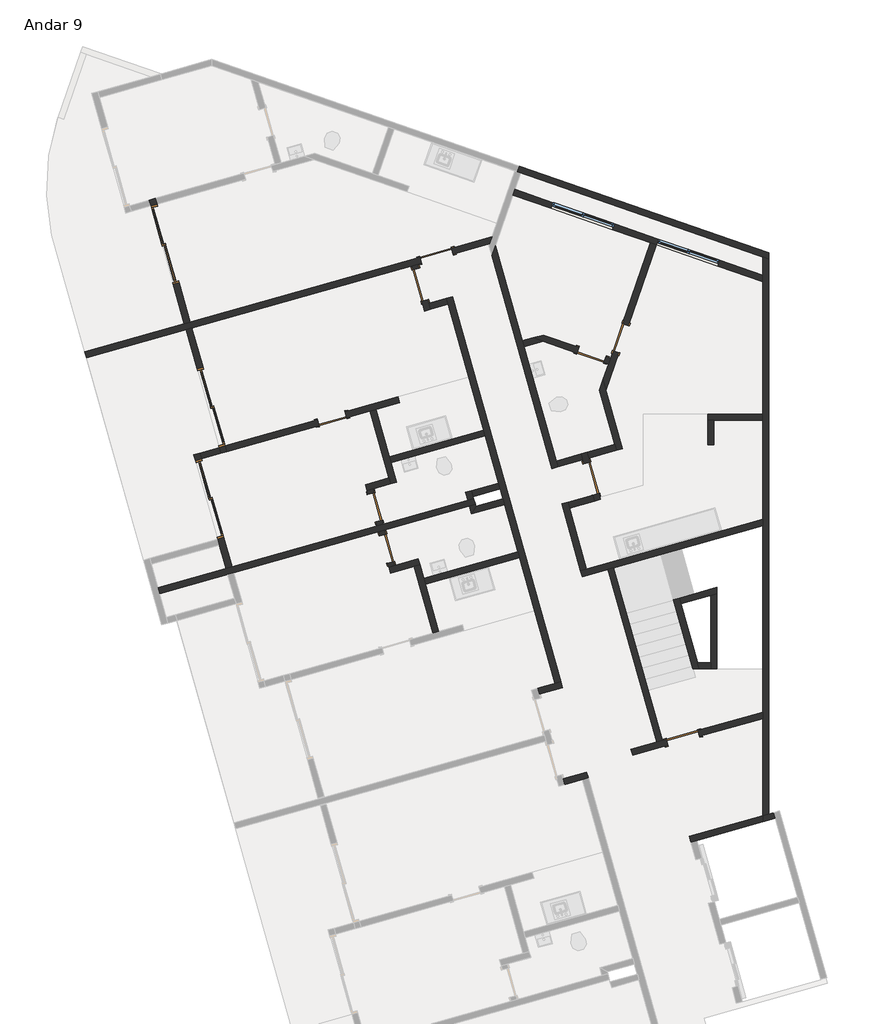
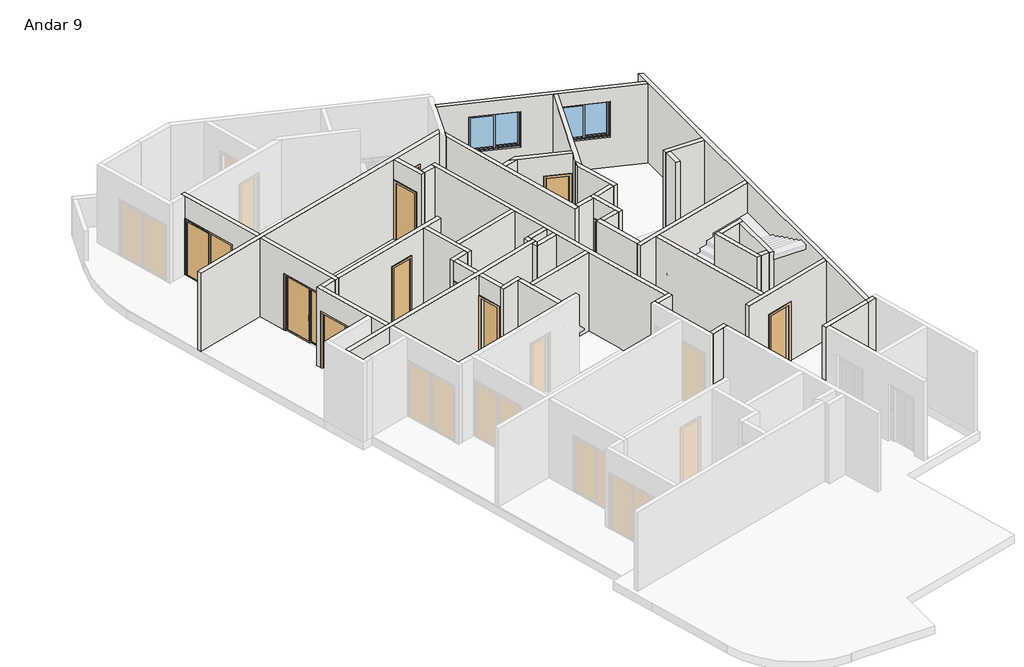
# One storey, part 2 of 3: 48 walls, 12 doors, 2 windows.
"""IFC4 building model written with IfcOpenShell, lengths in millimetres."""

from ifc_helpers import new_model, si_unit, frame, origin, place, context, project, spatial, polyline, outline, extrude, faceted_brep, transform, mapped, element, save
from components import p2_80cm_9d4be4ef, p2_80cm_083652d6, p3_70cm_ef4d15e3, p3_70cm_0a698c7c, p4_correr_200cm_eaaa0877, jx_160cm_e9e36a0c

model = new_model("IFC4")

# Units and contexts
model_context = context("Model", 3, world=origin())
ifc_project = project(units=[si_unit("LENGTHUNIT", "METRE", prefix="MILLI")], contexts=[model_context])

# Site, building, storey
site = spatial("IfcSite", under=ifc_project)
building = spatial("IfcBuilding", under=site)
storey = spatial("IfcBuildingStorey", under=building, Name="Andar 9", Elevation=76850.0)

# Doors
placement = place(None, origin())
p2_80cm_shape = p2_80cm_9d4be4ef(model_context)
element("IfcDoor", 1, ObjectType="M_Folha única1 : P2 - 80CM", at=placement, inside=storey, context=model_context, shape_type="MappedRepresentation", body=[
    mapped(p2_80cm_shape, transform((-83145.1128896, 30941.0402894, 76850.0), x_axis=(-0.9623628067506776, -0.2717679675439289, 0.0), y_axis=(0.2717679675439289, -0.9623628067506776, 0.0), z_axis=(0.0, 0.0, 1.0))),
])
element("IfcDoor", 2, ObjectType="M_Folha única1 : P2 - 80CM", at=placement, inside=storey, context=model_context, shape_type="MappedRepresentation", body=[
    mapped(p2_80cm_shape, transform((-79349.4097406, 25479.1041247, 76850.0), x_axis=(-0.27176796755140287, 0.962362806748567, 0.0), y_axis=(-0.962362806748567, -0.27176796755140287, 0.0), z_axis=(0.0, 0.0, 1.0))),
])
p2_80cm_2_shape = p2_80cm_083652d6(model_context)
element("IfcDoor", 3, ObjectType="M_Folha única1 : P2 - 80CM", at=placement, inside=storey, context=model_context, shape_type="MappedRepresentation", body=[
    mapped(p2_80cm_2_shape, transform((-83542.2049222, 30231.4150941, 76850.0), x_axis=(-0.2717679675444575, 0.9623628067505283, 0.0), y_axis=(-0.9623628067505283, -0.2717679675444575, 0.0), z_axis=(0.0, 0.0, 1.0))),
])
p3_70cm_shape = p3_70cm_ef4d15e3(model_context)
element("IfcDoor", 4, ObjectType="M_Folha única1 : P3 - 70CM", at=placement, inside=storey, context=model_context, shape_type="MappedRepresentation", body=[
    mapped(p3_70cm_shape, transform((-84650.97864, 24774.7108835, 76850.0), x_axis=(0.2717679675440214, -0.9623628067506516, 0.0), y_axis=(0.9623628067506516, 0.2717679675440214, 0.0), z_axis=(0.0, 0.0, 1.0))),
])
p3_70cm_2_shape = p3_70cm_0a698c7c(model_context)
element("IfcDoor", 5, ObjectType="M_Folha única1 : P3 - 70CM", at=placement, inside=storey, context=model_context, shape_type="MappedRepresentation", body=[
    mapped(p3_70cm_2_shape, transform((-84365.6222741, 23764.2299364, 76850.0), x_axis=(-0.2717679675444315, 0.9623628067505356, 0.0), y_axis=(-0.9623628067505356, -0.2717679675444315, 0.0), z_axis=(0.0, 0.0, 1.0))),
])
element("IfcDoor", 6, ObjectType="M_Folha única1 : P3 - 70CM", at=placement, inside=storey, context=model_context, shape_type="MappedRepresentation", body=[
    mapped(p3_70cm_2_shape, transform((-85705.4317558, 26944.8211633, 76850.0), x_axis=(0.9623628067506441, 0.2717679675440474, 0.0), y_axis=(-0.2717679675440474, 0.9623628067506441, 0.0), z_axis=(0.0, 0.0, 1.0))),
])
element("IfcDoor", 7, ObjectType="M_Folha única1 : P3 - 70CM", at=placement, inside=storey, context=model_context, shape_type="MappedRepresentation", body=[
    mapped(p3_70cm_2_shape, transform((-79346.1223746, 28509.6973665, 76850.0), x_axis=(0.9449109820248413, -0.32732741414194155, 0.0), y_axis=(0.32732741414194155, 0.9449109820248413, 0.0), z_axis=(0.0, 0.0, 1.0))),
])
element("IfcDoor", 8, ObjectType="M_Folha única1 : P3 - 70CM", at=placement, inside=storey, context=model_context, shape_type="MappedRepresentation", body=[
    mapped(p3_70cm_2_shape, transform((-78626.5662556, 28921.8732895, 76850.0), x_axis=(-0.32732741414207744, -0.9449109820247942, 0.0), y_axis=(0.9449109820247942, -0.32732741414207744, 0.0), z_axis=(0.0, 0.0, 1.0))),
])
p4_correr_200cm_shape = p4_correr_200cm_eaaa0877(model_context)
element("IfcDoor", 9, ObjectType="Porta de correr dupla envidraçada sem revestimento : P4 - CORRER - 200CM", at=placement, inside=storey, context=model_context, shape_type="MappedRepresentation", body=[
    mapped(p4_correr_200cm_shape, transform((-89799.7974026, 31217.9316171, 76850.0), x_axis=(0.27176796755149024, -0.9623628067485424, 0.0), y_axis=(0.9623628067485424, 0.27176796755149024, 0.0), z_axis=(0.0, 0.0, 1.0))),
])
element("IfcDoor", 10, ObjectType="Porta de correr dupla envidraçada sem revestimento : P4 - CORRER - 200CM", at=placement, inside=storey, context=model_context, shape_type="MappedRepresentation", body=[
    mapped(p4_correr_200cm_shape, transform((-88671.9603372, 27224.125969, 76850.0), x_axis=(-0.27176796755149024, 0.9623628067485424, 0.0), y_axis=(-0.9623628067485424, -0.27176796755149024, 0.0), z_axis=(0.0, 0.0, 1.0))),
])
element("IfcDoor", 11, ObjectType="Porta de correr dupla envidraçada sem revestimento : P4 - CORRER - 200CM", at=placement, inside=storey, context=model_context, shape_type="MappedRepresentation", body=[
    mapped(p4_correr_200cm_shape, transform((-88709.3738038, 24979.4758572, 76850.0), x_axis=(-0.2717679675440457, 0.9623628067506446, 0.0), y_axis=(-0.9623628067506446, -0.2717679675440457, 0.0), z_axis=(0.0, 0.0, 1.0))),
])
element("IfcDoor", 12, ObjectType="M_Folha única1 : PCF1 - 80CM", at=placement, inside=storey, context=model_context, shape_type="MappedRepresentation", body=[
    mapped(p2_80cm_shape, transform((-77103.5502958, 19127.1105693, 76850.0), x_axis=(-0.9623628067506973, -0.2717679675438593, 0.0), y_axis=(0.2717679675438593, -0.9623628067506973, 0.0), z_axis=(0.0, 0.0, 1.0))),
])

# Walls
element("IfcWall", 13, ObjectType="Básica .15 -  Interna", at=placement, inside=storey, context=model_context, shape_type="Brep", body=[
    faceted_brep([(-82901.0804648, 29892.9118737, 76850.0), (-82860.3152697, 29748.5574527, 76850.0), (-81990.6577736, 26668.9964711, 76850.0), (-81949.8925784, 26524.6420501, 76850.0), (-81623.7710174, 25369.806682, 76850.0), (-81583.0058223, 25225.452261, 76850.0), (-81515.0638304, 24984.8615593, 76850.0), (-81474.2986352, 24840.5071383, 76850.0), (-81148.1770742, 23685.6717702, 76850.0), (-81107.4118791, 23541.3173492, 76850.0), (-80237.7543829, 20461.7563676, 76850.0), (-80237.7543829, 20461.7563676, 79750.0), (-81107.4118791, 23541.3173492, 79750.0), (-81148.1770742, 23685.6717702, 79750.0), (-81474.2986352, 24840.5071383, 79750.0), (-81515.0638304, 24984.8615593, 79750.0), (-81583.0058223, 25225.452261, 79750.0), (-81623.7710174, 25369.806682, 79750.0), (-81949.8925784, 26524.6420501, 79750.0), (-81990.6577736, 26668.9964711, 79750.0), (-82860.3152697, 29748.5574527, 79750.0), (-82901.0804648, 29892.9118737, 79750.0), (-82756.7260438, 29933.6770689, 76850.0), (-82756.7260438, 29933.6770689, 79750.0), (-80093.3999619, 20502.5215627, 79750.0), (-80093.3999619, 20502.5215627, 76850.0)], [[[0, 1, 2, 3, 4, 5, 6, 7, 8, 9, 10, 11, 12, 13, 14, 15, 16, 17, 18, 19, 20, 21]], [[22, 23, 24, 25]], [[10, 9, 8, 7, 6, 5, 4, 3, 2, 1, 0, 22, 25]], [[21, 20, 19, 18, 17, 16, 15, 14, 13, 12, 11, 24, 23]], [[0, 21, 23, 22]], [[11, 10, 25, 24]]]),
])
element("IfcWall", 14, ObjectType="Básica .15 -  Interna", at=placement, inside=storey, context=model_context, shape_type="Brep", body=[
    faceted_brep([(-83750.2661164, 30692.2138999, 76850.0), (-83723.0893197, 30595.9776193, 76850.0), (-83723.0893197, 30595.9776193, 78950.0), (-83505.6749457, 29826.0873739, 78950.0), (-83505.6749457, 29826.0873739, 76850.0), (-83437.7329538, 29585.4966722, 76850.0), (-83437.7329538, 29585.4966722, 79750.0), (-83750.2661164, 30692.2138999, 79750.0), (-83578.7348987, 30636.7428144, 78950.0), (-83578.7348987, 30636.7428144, 76850.0), (-83605.9116954, 30732.9790951, 76850.0), (-83605.9116954, 30732.9790951, 79750.0), (-83334.1437279, 29770.6162883, 79750.0), (-83293.3785328, 29626.2618673, 79750.0), (-83293.3785328, 29626.2618673, 76850.0), (-83334.1437279, 29770.6162883, 76850.0), (-83361.3205246, 29866.852569, 76850.0), (-83361.3205246, 29866.852569, 78950.0)], [[[0, 1, 2, 3, 4, 5, 6, 7]], [[8, 9, 10, 11, 12, 13, 14, 15, 16, 17]], [[10, 9, 1, 0]], [[16, 15, 14, 5, 4]], [[7, 6, 13, 12, 11]], [[6, 5, 14, 13]], [[0, 7, 11, 10]], [[2, 1, 9, 8]], [[3, 2, 8, 17]], [[4, 3, 17, 16]]]),
])
element("IfcWall", 15, ObjectType="Básica .15 -  Interna", at=placement, inside=storey, context=model_context, shape_type="SweptSolid", body=[
    extrude(outline(polyline([(-82860.3152697, 29748.5574527), (-83293.3785328, 29626.2618673), (-83334.1437279, 29770.6162883), (-82901.0804648, 29892.9118737), (-82860.3152697, 29748.5574527)])), frame((0.0, 0.0, 76850.0), z_axis=(0.0, 0.0, 1.0), x_axis=(1.0, 0.0, 0.0)), (0.0, 0.0, 1.0), 2900.0),
])
element("IfcWall", 16, ObjectType="Básica .15 -  Interna", at=placement, inside=storey, context=model_context, shape_type="Brep", body=[
    faceted_brep([(-80093.3999619, 20502.5215627, 76850.0), (-80237.7543829, 20461.7563676, 76850.0), (-80670.817646, 20339.4607822, 76850.0), (-80670.817646, 20339.4607822, 79750.0), (-80237.7543829, 20461.7563676, 79750.0), (-80093.3999619, 20502.5215627, 79750.0), (-80052.6347668, 20358.1671417, 76850.0), (-80052.6347668, 20358.1671417, 79750.0), (-80630.0524508, 20195.1063612, 79750.0), (-80630.0524508, 20195.1063612, 76850.0)], [[[0, 1, 2, 3, 4, 5]], [[6, 7, 8, 9]], [[2, 1, 0, 6, 9]], [[5, 4, 3, 8, 7]], [[3, 2, 9, 8]], [[0, 5, 7, 6]]]),
])
element("IfcWall", 17, ObjectType="Básica .15 -  Interna", at=placement, inside=storey, context=model_context, shape_type="Brep", body=[
    faceted_brep([(-80004.9861255, 17981.6719056, 76850.0), (-79571.9228624, 18103.967491, 76850.0), (-79427.5684414, 18144.7326862, 76850.0), (-79427.5684414, 18144.7326862, 79750.0), (-79571.9228624, 18103.967491, 79750.0), (-80004.9861255, 17981.6719056, 79750.0), (-80045.7513206, 18126.0263266, 76850.0), (-80045.7513206, 18126.0263266, 79750.0), (-79468.3336366, 18289.0871072, 79750.0), (-79468.3336366, 18289.0871072, 76850.0)], [[[0, 1, 2, 3, 4, 5]], [[6, 7, 8, 9]], [[2, 1, 0, 6, 9]], [[5, 4, 3, 8, 7]], [[3, 2, 9, 8]], [[0, 5, 7, 6]]]),
])
element("IfcWall", 18, ObjectType="Básica .15 -  Interna", at=placement, inside=storey, context=model_context, shape_type="Brep", body=[
    faceted_brep([(-88305.9570711, 23274.9583478, 79750.0), (-88469.0178517, 23852.3760319, 79750.0), (-88509.7830468, 23996.7304529, 79750.0), (-89094.084177, 26065.8104874, 79750.0), (-89094.084177, 26065.8104874, 76850.0), (-89053.3189819, 25921.4560664, 76850.0), (-89053.3189819, 25921.4560664, 78950.0), (-88509.7830468, 23996.7304529, 78950.0), (-88509.7830468, 23996.7304529, 76850.0), (-88469.0178517, 23852.3760319, 76850.0), (-88305.9570711, 23274.9583478, 76850.0), (-88949.729756, 26106.5756825, 79750.0), (-88908.9645609, 25962.2212615, 79750.0), (-88161.6026501, 23315.723543, 79750.0), (-88161.6026501, 23315.723543, 76850.0), (-88365.4286258, 24037.495648, 76850.0), (-88365.4286258, 24037.495648, 78950.0), (-88908.9645609, 25962.2212615, 78950.0), (-88908.9645609, 25962.2212615, 76850.0), (-88949.729756, 26106.5756825, 76850.0)], [[[0, 1, 2, 3, 4, 5, 6, 7, 8, 9, 10]], [[11, 12, 13, 14, 15, 16, 17, 18, 19]], [[4, 19, 18, 5]], [[14, 10, 9, 8, 15]], [[3, 2, 1, 0, 13, 12, 11]], [[4, 3, 11, 19]], [[0, 10, 14, 13]], [[17, 6, 5, 18]], [[6, 17, 16, 7]], [[7, 16, 15, 8]]]),
])
element("IfcWall", 19, ObjectType="Básica .15 -  Interna", at=placement, inside=storey, context=model_context, shape_type="Brep", body=[
    faceted_brep([(-89143.3190618, 29169.2341801, 79750.0), (-88328.0151592, 26282.1457598, 79750.0), (-88287.249964, 26137.7913388, 79750.0), (-88287.249964, 26137.7913388, 76850.0), (-88328.0151592, 26282.1457598, 76850.0), (-88328.0151592, 26282.1457598, 78950.0), (-88871.5510943, 28206.8713733, 78950.0), (-88871.5510943, 28206.8713733, 76850.0), (-89143.3190618, 29169.2341801, 76850.0), (-88431.604385, 26097.0261437, 79750.0), (-88472.3695802, 26241.3805647, 79750.0), (-89287.6734828, 29128.468985, 79750.0), (-89287.6734828, 29128.468985, 76850.0), (-89015.9055153, 28166.1061782, 76850.0), (-89015.9055153, 28166.1061782, 78950.0), (-88472.3695802, 26241.3805647, 78950.0), (-88472.3695802, 26241.3805647, 76850.0), (-88431.604385, 26097.0261437, 76850.0)], [[[0, 1, 2, 3, 4, 5, 6, 7, 8]], [[9, 10, 11, 12, 13, 14, 15, 16, 17]], [[3, 17, 16, 4]], [[12, 8, 7, 13]], [[2, 1, 0, 11, 10, 9]], [[3, 2, 9, 17]], [[0, 8, 12, 11]], [[6, 14, 13, 7]], [[14, 6, 5, 15]], [[15, 5, 4, 16]]]),
])
element("IfcWall", 20, ObjectType="Básica .15 -  Interna", at=placement, inside=storey, context=model_context, shape_type="Brep", body=[
    faceted_brep([(-76904.7538909, 16570.3643175, 76850.0), (-76760.3994699, 16611.1295126, 76850.0), (-75147.8282189, 17066.5141226, 76850.0), (-75147.8282189, 17066.5141226, 79750.0), (-76760.3994699, 16611.1295126, 79750.0), (-76904.7538909, 16570.3643175, 79750.0), (-76945.5190861, 16714.7187385, 76850.0), (-76945.5190861, 16714.7187385, 79750.0), (-75147.8282189, 17222.3804954, 79750.0), (-75147.8282189, 17222.3804954, 76850.0)], [[[0, 1, 2, 3, 4, 5]], [[6, 7, 8, 9]], [[2, 1, 0, 6, 9]], [[5, 4, 3, 8, 7]], [[0, 5, 7, 6]], [[3, 2, 9, 8]]]),
])
element("IfcWall", 21, ObjectType="Básica .15 -  Interna", at=placement, inside=storey, context=model_context, shape_type="Brep", body=[
    faceted_brep([(-79570.9048554, 23078.5590693, 76850.0), (-78948.2127609, 23254.4051886, 76850.0), (-78803.8582924, 23295.1703972, 76850.0), (-75147.8282189, 24327.6207947, 76850.0), (-75147.8282189, 24327.6207947, 79750.0), (-78803.8582924, 23295.1703972, 79750.0), (-78948.2127609, 23254.4051886, 79750.0), (-79570.9048554, 23078.5590693, 79750.0), (-79611.6700506, 23222.9134903, 76850.0), (-79611.6700506, 23222.9134903, 79750.0), (-79467.3156296, 23263.6786855, 79750.0), (-75147.8282189, 24483.4871675, 79750.0), (-75147.8282189, 24483.4871675, 76850.0), (-79467.3156296, 23263.6786855, 76850.0)], [[[0, 1, 2, 3, 4, 5, 6, 7]], [[8, 9, 10, 11, 12, 13]], [[3, 2, 1, 0, 8, 13, 12]], [[7, 6, 5, 4, 11, 10, 9]], [[0, 7, 9, 8]], [[4, 3, 12, 11]]]),
])
element("IfcWall", 22, ObjectType="Básica .15 -  Interna", at=placement, inside=storey, context=model_context, shape_type="SweptSolid", body=[
    extrude(outline(polyline([(-77749.4687652, 19022.6385875), (-78948.2127609, 23254.4051886), (-78803.8582924, 23295.1703972), (-77605.1142967, 19063.4037961), (-77749.4687652, 19022.6385875)])), frame((0.0, 0.0, 76850.0), z_axis=(0.0, 0.0, 1.0), x_axis=(1.0, 0.0, 0.0)), (0.0, 0.0, 1.0), 2900.0),
])
element("IfcWall", 23, ObjectType="Básica .15 -  Interna", at=placement, inside=storey, context=model_context, shape_type="Brep", body=[
    faceted_brep([(-77508.878016, 19090.5805928, 78950.0), (-77508.878016, 19090.5805928, 76850.0), (-77605.1142967, 19063.4037961, 76850.0), (-77749.4687652, 19022.6385875, 76850.0), (-78375.5945972, 18845.8227925, 76850.0), (-78375.5945972, 18845.8227925, 79750.0), (-77749.4687652, 19022.6385875, 79750.0), (-77605.1142967, 19063.4037961, 79750.0), (-75147.8282189, 19757.3329862, 79750.0), (-75147.8282189, 19757.3329862, 76850.0), (-76738.9877706, 19307.9949669, 76850.0), (-76738.9877706, 19307.9949669, 78950.0), (-78334.829402, 18701.4683715, 76850.0), (-77468.1128209, 18946.2261718, 76850.0), (-77468.1128209, 18946.2261718, 78950.0), (-76698.2225755, 19163.6405459, 78950.0), (-76698.2225755, 19163.6405459, 76850.0), (-75147.8282189, 19601.4666134, 76850.0), (-75147.8282189, 19601.4666134, 79750.0), (-78334.829402, 18701.4683715, 79750.0)], [[[0, 1, 2, 3, 4, 5, 6, 7, 8, 9, 10, 11]], [[12, 13, 14, 15, 16, 17, 18, 19]], [[10, 9, 17, 16]], [[4, 3, 2, 1, 13, 12]], [[5, 4, 12, 19]], [[8, 7, 6, 5, 19, 18]], [[14, 13, 1, 0]], [[15, 14, 0, 11]], [[16, 15, 11, 10]], [[9, 8, 18, 17]]]),
])
element("IfcWall", 24, ObjectType="Básica .15 - Externa", at=placement, inside=storey, context=model_context, shape_type="Brep", body=[
    faceted_brep([(-75147.8282189, 30909.9128092, 79750.0), (-75147.8282189, 30909.9128092, 76850.0), (-75147.8282189, 30461.6117638, 76850.0), (-75147.8282189, 30302.8666514, 76850.0), (-75147.8282189, 27060.8243598, 76850.0), (-75147.8282189, 26910.8243598, 76850.0), (-75147.8282189, 24483.4871675, 76850.0), (-75147.8282189, 24327.6207947, 76850.0), (-75147.8282189, 19757.3329862, 76850.0), (-75147.8282189, 19601.4666134, 76850.0), (-75147.8282189, 17222.3804954, 76850.0), (-75147.8282189, 17222.3804954, 79750.0), (-75147.8282189, 19601.4666134, 79750.0), (-75147.8282189, 19757.3329862, 79750.0), (-75147.8282189, 24327.6207947, 79750.0), (-75147.8282189, 24483.4871675, 79750.0), (-75147.8282189, 26910.8243598, 79750.0), (-75147.8282189, 27060.8243598, 79750.0), (-75147.8282189, 30302.8666514, 79750.0), (-75147.8282189, 30461.6117638, 79750.0), (-74997.8282189, 30857.9511821, 76850.0), (-74997.8282189, 30857.9511821, 78150.0), (-74997.8282189, 30857.9511821, 79450.0), (-74997.8282189, 30857.9511821, 79750.0), (-74997.8282189, 17264.7399828, 79750.0), (-74997.8282189, 17264.7399828, 76850.0)], [[[0, 1, 2, 3, 4, 5, 6, 7, 8, 9, 10, 11, 12, 13, 14, 15, 16, 17, 18, 19]], [[20, 21, 22, 23, 24, 25]], [[10, 9, 8, 7, 6, 5, 4, 3, 2, 1, 20, 25]], [[0, 19, 18, 17, 16, 15, 14, 13, 12, 11, 24, 23]], [[11, 10, 25, 24]], [[0, 23, 22, 21, 20, 1]]]),
])
element("IfcWall", 25, ObjectType="Básica .15 -  Interna", at=placement, inside=storey, context=model_context, shape_type="Brep", body=[
    faceted_brep([(-80073.6755954, 24858.9302618, 76850.0), (-79611.6700506, 23222.9134903, 76850.0), (-79611.6700506, 23222.9134903, 79750.0), (-80073.6755954, 24858.9302618, 79750.0), (-79929.3211744, 24899.695457, 76850.0), (-79929.3211744, 24899.695457, 79750.0), (-79888.5559793, 24755.3410359, 79750.0), (-79467.3156296, 23263.6786855, 79750.0), (-79467.3156296, 23263.6786855, 76850.0), (-79888.5559793, 24755.3410359, 76850.0)], [[[0, 1, 2, 3]], [[4, 5, 6, 7, 8, 9]], [[1, 0, 4, 9, 8]], [[3, 2, 7, 6, 5]], [[0, 3, 5, 4]], [[2, 1, 8, 7]]]),
])
element("IfcWall", 26, ObjectType="Básica .15 -  Interna", at=placement, inside=storey, context=model_context, shape_type="Brep", body=[
    faceted_brep([(-79888.5559793, 24755.3410359, 76850.0), (-79272.1145689, 24929.4219834, 76850.0), (-79272.1145689, 24929.4219834, 79750.0), (-79888.5559793, 24755.3410359, 79750.0), (-79929.3211744, 24899.695457, 76850.0), (-79929.3211744, 24899.695457, 79750.0), (-79312.8797641, 25073.7764044, 79750.0), (-79312.8797641, 25073.7764044, 78950.0), (-79312.8797641, 25073.7764044, 76850.0)], [[[0, 1, 2, 3]], [[4, 5, 6, 7, 8]], [[1, 0, 4, 8]], [[3, 2, 6, 5]], [[0, 3, 5, 4]], [[2, 1, 8, 7, 6]]]),
])
element("IfcWall", 27, ObjectType="Básica .15 -  Interna", at=placement, inside=storey, context=model_context, shape_type="Brep", body=[
    faceted_brep([(-79598.23613, 26084.2573515, 76850.0), (-79557.4709349, 25939.9029305, 76850.0), (-79530.2941381, 25843.6666498, 76850.0), (-79530.2941381, 25843.6666498, 78950.0), (-79312.8797641, 25073.7764044, 78950.0), (-79312.8797641, 25073.7764044, 76850.0), (-79272.1145689, 24929.4219834, 76850.0), (-79272.1145689, 24929.4219834, 79750.0), (-79312.8797641, 25073.7764044, 79750.0), (-79557.4709349, 25939.9029305, 79750.0), (-79598.23613, 26084.2573515, 79750.0), (-79385.9397171, 25884.4318449, 78950.0), (-79385.9397171, 25884.4318449, 76850.0), (-79413.1165138, 25980.6681256, 76850.0), (-79453.881709, 26125.0225466, 76850.0), (-79453.881709, 26125.0225466, 79750.0), (-79413.1165138, 25980.6681256, 79750.0), (-79127.7601479, 24970.1871785, 79750.0), (-79127.7601479, 24970.1871785, 76850.0), (-79168.5253431, 25114.5415995, 76850.0), (-79168.5253431, 25114.5415995, 78950.0)], [[[0, 1, 2, 3, 4, 5, 6, 7, 8, 9, 10]], [[11, 12, 13, 14, 15, 16, 17, 18, 19, 20]], [[19, 18, 6, 5]], [[14, 13, 12, 2, 1, 0]], [[10, 9, 8, 7, 17, 16, 15]], [[7, 6, 18, 17]], [[0, 10, 15, 14]], [[3, 2, 12, 11]], [[4, 3, 11, 20]], [[5, 4, 20, 19]]]),
])
element("IfcWall", 28, ObjectType="Básica .15 -  Interna", at=placement, inside=storey, context=model_context, shape_type="Brep", body=[
    faceted_brep([(-81789.2550074, 30934.0017027, 76850.0), (-80318.2667662, 25725.0567879, 76850.0), (-80318.2667662, 25725.0567879, 79750.0), (-81789.2550074, 30934.0017027, 79750.0), (-81703.3880158, 31181.8778654, 76850.0), (-81703.3880158, 31181.8778654, 79750.0), (-81045.1503443, 28850.9797144, 79750.0), (-81004.3851492, 28706.6252933, 79750.0), (-80214.6775403, 25910.176404, 79750.0), (-80173.9123452, 25765.821983, 79750.0), (-80173.9123452, 25765.821983, 76850.0), (-80214.6775403, 25910.176404, 76850.0), (-81004.3851492, 28706.6252933, 76850.0), (-81045.1503443, 28850.9797144, 76850.0)], [[[0, 1, 2, 3]], [[4, 5, 6, 7, 8, 9, 10, 11, 12, 13]], [[1, 0, 4, 13, 12, 11, 10]], [[3, 2, 9, 8, 7, 6, 5]], [[0, 3, 5, 4]], [[2, 1, 10, 9]]]),
])
element("IfcWall", 29, ObjectType="Básica .15 -  Interna", at=placement, inside=storey, context=model_context, shape_type="Brep", body=[
    faceted_brep([(-88908.9645609, 25962.2212615, 76850.0), (-88431.604385, 26097.0261437, 76850.0), (-88431.604385, 26097.0261437, 79750.0), (-88908.9645609, 25962.2212615, 79750.0), (-88908.9645609, 25962.2212615, 78950.0), (-88949.729756, 26106.5756825, 76850.0), (-88949.729756, 26106.5756825, 79750.0), (-88472.3695802, 26241.3805647, 79750.0), (-88472.3695802, 26241.3805647, 76850.0)], [[[0, 1, 2, 3, 4]], [[5, 6, 7, 8]], [[1, 0, 5, 8]], [[3, 2, 7, 6]], [[0, 4, 3, 6, 5]], [[2, 1, 8, 7]]]),
])
element("IfcWall", 30, ObjectType="Básica .15 -  Interna", at=placement, inside=storey, context=model_context, shape_type="SweptSolid", body=[
    extrude(outline(polyline([(-79557.4709349, 25939.9029305), (-80173.9123452, 25765.821983), (-80214.6775403, 25910.176404), (-79598.23613, 26084.2573515), (-79557.4709349, 25939.9029305)])), frame((0.0, 0.0, 76850.0), z_axis=(0.0, 0.0, 1.0), x_axis=(1.0, 0.0, 0.0)), (0.0, 0.0, 1.0), 2900.0),
])
element("IfcWall", 31, ObjectType="Básica .15 -  Interna", at=placement, inside=storey, context=model_context, shape_type="Brep", body=[
    faceted_brep([(-91725.2428613, 28440.1077234, 76850.0), (-89287.6734828, 29128.468985, 76850.0), (-89143.3190618, 29169.2341801, 76850.0), (-83750.2661164, 30692.2138999, 76850.0), (-83605.9116954, 30732.9790951, 76850.0), (-83509.6754148, 30760.1558918, 76850.0), (-83509.6754148, 30760.1558918, 78950.0), (-82739.7851694, 30977.5702659, 78950.0), (-82739.7851694, 30977.5702659, 76850.0), (-81845.4155775, 31230.1371819, 76850.0), (-81845.4155775, 31230.1371819, 79750.0), (-83605.9116954, 30732.9790951, 79750.0), (-83750.2661164, 30692.2138999, 79750.0), (-89143.3190618, 29169.2341801, 79750.0), (-89287.6734828, 29128.468985, 79750.0), (-91725.2428613, 28440.1077234, 79750.0), (-83550.4406099, 30904.5103128, 78950.0), (-83550.4406099, 30904.5103128, 76850.0), (-89184.084257, 29313.5886011, 76850.0), (-89328.438678, 29272.823406, 76850.0), (-91766.0080564, 28584.4621444, 76850.0), (-91766.0080564, 28584.4621444, 79750.0), (-89328.438678, 29272.823406, 79750.0), (-89184.084257, 29313.5886011, 79750.0), (-81785.5670817, 31402.9045654, 79750.0), (-81785.5670817, 31402.9045654, 76850.0), (-82780.5503645, 31121.9246869, 76850.0), (-82780.5503645, 31121.9246869, 78950.0)], [[[0, 1, 2, 3, 4, 5, 6, 7, 8, 9, 10, 11, 12, 13, 14, 15]], [[16, 17, 18, 19, 20, 21, 22, 23, 24, 25, 26, 27]], [[26, 25, 9, 8]], [[20, 19, 18, 17, 5, 4, 3, 2, 1, 0]], [[15, 14, 13, 12, 11, 10, 24, 23, 22, 21]], [[0, 15, 21, 20]], [[10, 9, 25, 24]], [[6, 5, 17, 16]], [[7, 6, 16, 27]], [[8, 7, 27, 26]]]),
])
element("IfcWall", 32, ObjectType="Básica .15 -  Interna", at=placement, inside=storey, context=model_context, shape_type="Brep", body=[
    faceted_brep([(-90040.1533547, 32345.0314424, 79750.0), (-89999.3881596, 32200.6770214, 79750.0), (-89184.084257, 29313.5886011, 79750.0), (-89184.084257, 29313.5886011, 76850.0), (-89455.8522245, 30275.9514079, 76850.0), (-89455.8522245, 30275.9514079, 78950.0), (-89999.3881596, 32200.6770214, 78950.0), (-89999.3881596, 32200.6770214, 76850.0), (-90040.1533547, 32345.0314424, 76850.0), (-89328.438678, 29272.823406, 79750.0), (-90143.7425806, 32159.9118263, 79750.0), (-90184.5077758, 32304.2662473, 79750.0), (-90184.5077758, 32304.2662473, 76850.0), (-90143.7425806, 32159.9118262, 76850.0), (-90143.7425806, 32159.9118262, 78950.0), (-89600.2066455, 30235.1862128, 78950.0), (-89600.2066455, 30235.1862128, 76850.0), (-89328.438678, 29272.823406, 76850.0)], [[[0, 1, 2, 3, 4, 5, 6, 7, 8]], [[9, 10, 11, 12, 13, 14, 15, 16, 17]], [[12, 8, 7, 13]], [[3, 17, 16, 4]], [[2, 1, 0, 11, 10, 9]], [[0, 8, 12, 11]], [[3, 2, 9, 17]], [[15, 5, 4, 16]], [[5, 15, 14, 6]], [[6, 14, 13, 7]]]),
])
element("IfcWall", 33, ObjectType="Básica .15 -  Interna", at=placement, inside=storey, context=model_context, shape_type="Brep", body=[
    faceted_brep([(-89936.6922366, 22658.5779377, 76850.0), (-88265.191876, 23130.6039268, 76850.0), (-88120.837455, 23171.369122, 76850.0), (-84560.09507, 24176.9106019, 76850.0), (-84415.740649, 24217.675797, 76850.0), (-82192.6825654, 24845.459802, 76850.0), (-82192.6825654, 24845.459802, 79750.0), (-84415.740649, 24217.675797, 79750.0), (-84560.09507, 24176.9106019, 79750.0), (-88120.837455, 23171.369122, 79750.0), (-88265.191876, 23130.6039268, 79750.0), (-89936.6922366, 22658.5779377, 79750.0), (-89977.4574318, 22802.9323587, 76850.0), (-89977.4574318, 22802.9323587, 79750.0), (-88305.9570711, 23274.9583478, 79750.0), (-88161.6026501, 23315.723543, 79750.0), (-84600.8602651, 24321.2650229, 79750.0), (-84456.5058441, 24362.030218, 79750.0), (-82233.4477605, 24989.814223, 79750.0), (-82233.4477605, 24989.814223, 76850.0), (-84456.5058441, 24362.030218, 76850.0), (-84600.8602651, 24321.2650229, 76850.0), (-88161.6026501, 23315.723543, 76850.0), (-88305.9570711, 23274.9583478, 76850.0)], [[[0, 1, 2, 3, 4, 5, 6, 7, 8, 9, 10, 11]], [[12, 13, 14, 15, 16, 17, 18, 19, 20, 21, 22, 23]], [[5, 4, 3, 2, 1, 0, 12, 23, 22, 21, 20, 19]], [[6, 5, 19, 18]], [[11, 10, 9, 8, 7, 6, 18, 17, 16, 15, 14, 13]], [[0, 11, 13, 12]]]),
])
element("IfcWall", 34, ObjectType="Básica .15 -  Interna", at=placement, inside=storey, context=model_context, shape_type="Brep", body=[
    faceted_brep([(-81272.8781344, 32424.6503839, 76850.0), (-77897.5766162, 31255.4093243, 76850.0), (-77755.8399689, 31206.3102121, 76850.0), (-75147.8282189, 30302.8666514, 76850.0), (-75147.8282189, 30302.8666514, 79750.0), (-77755.8399689, 31206.3102121, 79750.0), (-77897.5766162, 31255.4093243, 79750.0), (-81272.8781344, 32424.6503839, 79750.0), (-78829.2985897, 31578.1679228, 77950.0), (-80341.1561609, 32101.8917854, 77950.0), (-80341.1561609, 32101.8917854, 79250.0), (-78829.2985897, 31578.1679228, 79250.0), (-76243.9823976, 30682.5863495, 77950.0), (-77755.8399689, 31206.3102121, 77950.0), (-77755.8399689, 31206.3102121, 79250.0), (-76243.9823976, 30682.5863495, 79250.0), (-81223.7790223, 32566.3870312, 76850.0), (-81223.7790223, 32566.3870312, 79750.0), (-75147.8282189, 30461.6117638, 79750.0), (-75147.8282189, 30461.6117638, 76850.0), (-78780.1994776, 31719.9045701, 77950.0), (-78780.1994776, 31719.9045701, 79250.0), (-80292.0570488, 32243.6284327, 79250.0), (-80292.0570488, 32243.6284327, 77950.0), (-76194.8832855, 30824.3229968, 77950.0), (-76194.8832855, 30824.3229968, 79250.0), (-77706.7408568, 31348.0468595, 79250.0), (-77706.7408568, 31348.0468595, 77950.0)], [[[0, 1, 2, 3, 4, 5, 6, 7], [8, 9, 10, 11], [12, 13, 14, 15]], [[16, 17, 18, 19], [20, 21, 22, 23], [24, 25, 26, 27]], [[3, 2, 1, 0, 16, 19]], [[7, 6, 5, 4, 18, 17]], [[0, 7, 17, 16]], [[21, 20, 8, 11]], [[22, 21, 11, 10]], [[23, 22, 10, 9]], [[20, 23, 9, 8]], [[25, 24, 12, 15]], [[26, 25, 15, 14]], [[27, 26, 14, 13]], [[24, 27, 13, 12]], [[4, 3, 19, 18]]]),
])
element("IfcWall", 35, ObjectType="Básica .15 - Externa", at=placement, inside=storey, context=model_context, shape_type="Brep", body=[
    faceted_brep([(-81156.3583355, 32991.3328194, 78150.0), (-81156.3583355, 32991.3328194, 76850.0), (-81156.3583355, 32991.3328194, 76550.0), (-81085.1216301, 32966.655652, 76550.0), (-74997.8282189, 30857.9511821, 76550.0), (-74997.8282189, 30857.9511821, 76850.0), (-74997.8282189, 30857.9511821, 78150.0), (-81085.1216301, 32966.655652, 78150.0), (-81107.2592234, 33133.0694667, 76550.0), (-81107.2592234, 33133.0694667, 76850.0), (-81107.2592234, 33133.0694667, 78150.0), (-81036.022518, 33108.3922993, 78150.0), (-74997.8282189, 31016.6962944, 78150.0), (-74997.8282189, 31016.6962944, 76550.0), (-81036.022518, 33108.3922993, 76550.0)], [[[0, 1, 2, 3, 4, 5, 6, 7]], [[8, 9, 10, 11, 12, 13, 14]], [[4, 3, 2, 8, 14, 13]], [[0, 7, 6, 12, 11, 10]], [[0, 10, 9, 8, 2, 1]], [[4, 13, 12, 6, 5]]]),
])
element("IfcWall", 36, ObjectType="Básica .15 -  Interna", at=placement, inside=storey, context=model_context, shape_type="SweptSolid", body=[
    extrude(outline(polyline([(-82179.094167, 24797.3416617), (-81515.0638304, 24984.8615593), (-81474.2986352, 24840.5071383), (-82282.6833929, 24612.2220455), (-82179.094167, 24797.3416617)])), frame((0.0, 0.0, 76850.0), z_axis=(0.0, 0.0, 1.0), x_axis=(1.0, 0.0, 0.0)), (0.0, 0.0, 1.0), 2900.0),
])
element("IfcWall", 37, ObjectType="Básica .15 -  Interna", at=placement, inside=storey, context=model_context, shape_type="SweptSolid", body=[
    extrude(outline(polyline([(-82192.6825654, 24845.459802), (-82179.094167, 24797.3416617), (-82282.6833929, 24612.2220455), (-82337.0369864, 24804.6946069), (-82192.6825654, 24845.459802)])), frame((0.0, 0.0, 76850.0), z_axis=(0.0, 0.0, 1.0), x_axis=(1.0, 0.0, 0.0)), (0.0, 0.0, 1.0), 2900.0),
])
element("IfcWall", 38, ObjectType="Básica .15 -  Interna", at=placement, inside=storey, context=model_context, shape_type="Brep", body=[
    faceted_brep([(-83593.7317942, 23514.6100515, 76850.0), (-84171.1494782, 23351.5492709, 76850.0), (-84315.5038992, 23310.7840758, 76850.0), (-84315.5038992, 23310.7840758, 79750.0), (-84171.1494782, 23351.5492709, 79750.0), (-83593.7317942, 23514.6100515, 79750.0), (-83552.966599, 23370.2556304, 76850.0), (-83552.966599, 23370.2556304, 79750.0), (-83697.32102, 23329.4904353, 79750.0), (-84274.7387041, 23166.4296548, 79750.0), (-84274.7387041, 23166.4296548, 76850.0), (-83697.32102, 23329.4904353, 76850.0)], [[[0, 1, 2, 3, 4, 5]], [[6, 7, 8, 9, 10, 11]], [[2, 1, 0, 6, 11, 10]], [[5, 4, 3, 9, 8, 7]], [[0, 5, 7, 6]], [[3, 2, 10, 9]]]),
])
element("IfcWall", 39, ObjectType="Básica .15 -  Interna", at=placement, inside=storey, context=model_context, shape_type="Brep", body=[
    faceted_brep([(-83090.9610542, 21734.238859, 76850.0), (-83417.0826153, 22889.0742271, 76850.0), (-83457.8478104, 23033.4286481, 76850.0), (-83552.966599, 23370.2556304, 76850.0), (-83552.966599, 23370.2556304, 79750.0), (-83457.8478104, 23033.4286481, 79750.0), (-83417.0826153, 22889.0742271, 79750.0), (-83090.9610542, 21734.238859, 79750.0), (-83235.3154752, 21693.4736638, 76850.0), (-83235.3154752, 21693.4736638, 79750.0), (-83697.32102, 23329.4904353, 79750.0), (-83697.32102, 23329.4904353, 76850.0)], [[[0, 1, 2, 3, 4, 5, 6, 7]], [[8, 9, 10, 11]], [[3, 2, 1, 0, 8, 11]], [[7, 6, 5, 4, 10, 9]], [[0, 7, 9, 8]], [[4, 3, 11, 10]]]),
])
element("IfcWall", 40, ObjectType="Básica .15 -  Interna", at=placement, inside=storey, context=model_context, shape_type="SweptSolid", body=[
    extrude(outline(polyline([(-83457.8478104, 23033.4286481), (-81148.1770742, 23685.6717702), (-81107.4118791, 23541.3173492), (-83417.0826153, 22889.0742271), (-83457.8478104, 23033.4286481)])), frame((0.0, 0.0, 76850.0), z_axis=(0.0, 0.0, 1.0), x_axis=(1.0, 0.0, 0.0)), (0.0, 0.0, 1.0), 2900.0),
])
element("IfcWall", 41, ObjectType="Básica .15 -  Interna", at=placement, inside=storey, context=model_context, shape_type="SweptSolid", body=[
    extrude(outline(polyline([(150.0, 0.0), (250.0, 0.0), (250.0, -2100.0), (950.0, -2100.0), (950.0, 0.0), (1050.0, 0.0), (1050.0, -2900.0), (150.0, -2900.0), (150.0, 0.0)])), frame((-84600.8602651, 24321.2650229, 76850.0), z_axis=(0.9623628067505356, 0.2717679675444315, 0.0), x_axis=(0.2717679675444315, -0.9623628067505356, 0.0)), (0.0, 0.0, 1.0), 150.0),
])
element("IfcWall", 42, ObjectType="Básica .15 -  Interna", at=placement, inside=storey, context=model_context, shape_type="Brep", body=[
    faceted_brep([(-84770.8044918, 27130.823522, 76850.0), (-84308.798947, 25494.8067505, 76850.0), (-84268.0337519, 25350.4523295, 76850.0), (-84268.0337519, 25350.4523295, 79750.0), (-84308.798947, 25494.8067505, 79750.0), (-84770.8044918, 27130.823522, 79750.0), (-84626.4500708, 27171.5887171, 76850.0), (-84626.4500708, 27171.5887171, 79750.0), (-84300.3285098, 26016.753349, 79750.0), (-84259.5633146, 25872.398928, 79750.0), (-84123.6793309, 25391.2175246, 79750.0), (-84123.6793309, 25391.2175246, 76850.0), (-84259.5633146, 25872.398928, 76850.0), (-84300.3285098, 26016.753349, 76850.0)], [[[0, 1, 2, 3, 4, 5]], [[6, 7, 8, 9, 10, 11, 12, 13]], [[2, 1, 0, 6, 13, 12, 11]], [[5, 4, 3, 10, 9, 8, 7]], [[3, 2, 11, 10]], [[0, 5, 7, 6]]]),
])
element("IfcWall", 43, ObjectType="Básica .15 -  Interna", at=placement, inside=storey, context=model_context, shape_type="SweptSolid", body=[
    extrude(outline(polyline([(-84300.3285098, 26016.753349), (-81990.6577736, 26668.9964711), (-81949.8925784, 26524.6420501), (-84259.5633146, 25872.398928), (-84300.3285098, 26016.753349)])), frame((0.0, 0.0, 76850.0), z_axis=(0.0, 0.0, 1.0), x_axis=(1.0, 0.0, 0.0)), (0.0, 0.0, 1.0), 2900.0),
])
element("IfcWall", 44, ObjectType="Básica .15 -  Interna", at=placement, inside=storey, context=model_context, shape_type="Brep", body=[
    faceted_brep([(-84308.798947, 25494.8067505, 76850.0), (-84886.2166311, 25331.74597, 76850.0), (-84886.2166311, 25331.74597, 79750.0), (-84308.798947, 25494.8067505, 79750.0), (-84268.0337519, 25350.4523295, 76850.0), (-84268.0337519, 25350.4523295, 79750.0), (-84701.0970149, 25228.1567441, 79750.0), (-84845.4514359, 25187.391549, 79750.0), (-84845.4514359, 25187.391549, 76850.0), (-84701.0970149, 25228.1567441, 76850.0)], [[[0, 1, 2, 3]], [[4, 5, 6, 7, 8, 9]], [[1, 0, 4, 9, 8]], [[3, 2, 7, 6, 5]], [[2, 1, 8, 7]], [[0, 3, 5, 4]]]),
])
element("IfcWall", 45, ObjectType="Básica .15 -  Interna", at=placement, inside=storey, context=model_context, shape_type="SweptSolid", body=[
    extrude(outline(polyline([(800.0, -2100.0), (800.0, 0.0), (900.0, 0.0), (900.0, -2900.0), (0.0, -2900.0), (0.0, 0.0), (100.0, 0.0), (100.0, -2100.0), (800.0, -2100.0)])), frame((-84845.4514359, 25187.391549, 76850.0), z_axis=(0.9623628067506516, 0.2717679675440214, 0.0), x_axis=(0.2717679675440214, -0.9623628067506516, 0.0)), (0.0, 0.0, 1.0), 150.0),
])
element("IfcWall", 46, ObjectType="Básica .15 -  Interna", at=placement, inside=storey, context=model_context, shape_type="Brep", body=[
    faceted_brep([(-82432.1557751, 25141.5215893, 76850.0), (-82377.8021816, 24949.0490279, 76850.0), (-82377.8021816, 24949.0490279, 79750.0), (-82432.1557751, 25141.5215893, 79750.0), (-82287.801354, 25182.2867844, 76850.0), (-82287.801354, 25182.2867844, 79750.0), (-82247.0361589, 25037.9323634, 79750.0), (-82233.4477605, 24989.814223, 79750.0), (-82233.4477605, 24989.814223, 76850.0), (-82247.0361589, 25037.9323634, 76850.0)], [[[0, 1, 2, 3]], [[4, 5, 6, 7, 8, 9]], [[1, 0, 4, 9, 8]], [[2, 1, 8, 7]], [[3, 2, 7, 6, 5]], [[0, 3, 5, 4]]]),
])
element("IfcWall", 47, ObjectType="Básica .15 -  Interna", at=placement, inside=storey, context=model_context, shape_type="SweptSolid", body=[
    extrude(outline(polyline([(-81583.0058223, 25225.452261), (-82247.0361589, 25037.9323634), (-82287.801354, 25182.2867844), (-81623.7710174, 25369.806682), (-81583.0058223, 25225.452261)])), frame((0.0, 0.0, 76850.0), z_axis=(0.0, 0.0, 1.0), x_axis=(1.0, 0.0, 0.0)), (0.0, 0.0, 1.0), 2900.0),
])
element("IfcWall", 48, ObjectType="Básica .15 -  Interna", at=placement, inside=storey, context=model_context, shape_type="Brep", body=[
    faceted_brep([(-76493.6479314, 26910.8243598, 76850.0), (-76343.6479314, 26910.8243598, 76850.0), (-75147.8282189, 26910.8243598, 76850.0), (-75147.8282189, 26910.8243598, 79750.0), (-76343.6479314, 26910.8243598, 79750.0), (-76493.6479314, 26910.8243598, 79750.0), (-76493.6479314, 27060.8243598, 76850.0), (-76493.6479314, 27060.8243598, 79750.0), (-75147.8282189, 27060.8243598, 79750.0), (-75147.8282189, 27060.8243598, 76850.0)], [[[0, 1, 2, 3, 4, 5]], [[6, 7, 8, 9]], [[2, 1, 0, 6, 9]], [[5, 4, 3, 8, 7]], [[0, 5, 7, 6]], [[3, 2, 9, 8]]]),
])
element("IfcWall", 49, ObjectType="Básica .15 -  Interna", at=placement, inside=storey, context=model_context, shape_type="SweptSolid", body=[
    extrude(outline(polyline([(-76343.6479314, 26910.8243598), (-76343.6479314, 26310.8243598), (-76493.6479314, 26310.8243598), (-76493.6479314, 26910.8243598), (-76343.6479314, 26910.8243598)])), frame((0.0, 0.0, 76850.0), z_axis=(0.0, 0.0, 1.0), x_axis=(1.0, 0.0, 0.0)), (0.0, 0.0, 1.0), 2900.0),
])
element("IfcWall", 50, ObjectType="Básica .15 -  Interna", at=placement, inside=storey, context=model_context, shape_type="Brep", body=[
    faceted_brep([(-78877.464657, 28426.7218055, 76850.0), (-78990.8539749, 28466.0010952, 76850.0), (-78990.8539749, 28466.0010952, 78950.0), (-79652.2916623, 28695.1302851, 78950.0), (-79652.2916623, 28695.1302851, 76850.0), (-80525.6718652, 28997.6786614, 76850.0), (-80525.6718652, 28997.6786614, 79750.0), (-78877.464657, 28426.7218055, 79750.0), (-79039.953087, 28324.2644479, 78950.0), (-79039.953087, 28324.2644479, 76850.0), (-78926.5637691, 28284.9851582, 76850.0), (-78926.5637691, 28284.9851582, 79750.0), (-80530.2499593, 28840.5194505, 79750.0), (-80778.126122, 28926.3864421, 79750.0), (-80778.126122, 28926.3864421, 76850.0), (-80530.2499593, 28840.5194505, 76850.0), (-79701.3907744, 28553.3936378, 76850.0), (-79701.3907744, 28553.3936378, 78950.0)], [[[0, 1, 2, 3, 4, 5, 6, 7]], [[8, 9, 10, 11, 12, 13, 14, 15, 16, 17]], [[10, 9, 1, 0]], [[16, 15, 14, 5, 4]], [[7, 6, 13, 12, 11]], [[2, 1, 9, 8]], [[3, 2, 8, 17]], [[4, 3, 17, 16]], [[6, 5, 14, 13]], [[0, 7, 11, 10]]]),
])
element("IfcWall", 51, ObjectType="Básica .15 -  Interna", at=placement, inside=storey, context=model_context, shape_type="SweptSolid", body=[
    extrude(outline(polyline([(-81045.1503443, 28850.9797144), (-80778.126122, 28926.3864421), (-80530.2499593, 28840.5194505), (-81004.3851492, 28706.6252933), (-81045.1503443, 28850.9797144)])), frame((0.0, 0.0, 76850.0), z_axis=(0.0, 0.0, 1.0), x_axis=(1.0, 0.0, 0.0)), (0.0, 0.0, 1.0), 2900.0),
])
element("IfcWall", 52, ObjectType="Básica .15 -  Interna", at=placement, inside=storey, context=model_context, shape_type="Brep", body=[
    faceted_brep([(-79146.9727346, 27648.7205404, 76850.0), (-78771.1333302, 26317.8283554, 76850.0), (-78730.3681351, 26173.4739343, 76850.0), (-78730.3681351, 26173.4739343, 79750.0), (-78771.1333302, 26317.8283554, 79750.0), (-79146.9727346, 27648.7205404, 79750.0), (-79061.105743, 27896.5967032, 76850.0), (-79061.105743, 27896.5967032, 79750.0), (-78989.8135237, 27644.1424464, 79750.0), (-78586.013714, 26214.2391295, 79750.0), (-78586.013714, 26214.2391295, 76850.0), (-78989.8135237, 27644.1424464, 76850.0)], [[[0, 1, 2, 3, 4, 5]], [[6, 7, 8, 9, 10, 11]], [[2, 1, 0, 6, 11, 10]], [[5, 4, 3, 9, 8, 7]], [[0, 5, 7, 6]], [[3, 2, 10, 9]]]),
])
element("IfcWall", 53, ObjectType="Básica .15 -  Interna", at=placement, inside=storey, context=model_context, shape_type="Brep", body=[
    faceted_brep([(-78811.9991742, 28615.7040019, 78950.0), (-78811.9991742, 28615.7040019, 76850.0), (-78877.464657, 28426.7218055, 76850.0), (-78926.5637691, 28284.9851582, 76850.0), (-79061.105743, 27896.5967032, 76850.0), (-79061.105743, 27896.5967032, 79750.0), (-78926.5637691, 28284.9851582, 79750.0), (-78877.464657, 28426.7218055, 79750.0), (-77897.5766162, 31255.4093243, 79750.0), (-77897.5766162, 31255.4093243, 76850.0), (-78582.8699843, 29277.1416893, 76850.0), (-78582.8699843, 29277.1416893, 78950.0), (-78989.8135237, 27644.1424464, 76850.0), (-78670.2625269, 28566.6048898, 76850.0), (-78670.2625269, 28566.6048898, 78950.0), (-78441.133337, 29228.0425772, 78950.0), (-78441.133337, 29228.0425772, 76850.0), (-77755.8399689, 31206.3102121, 76850.0), (-77755.8399689, 31206.3102121, 77950.0), (-77755.8399689, 31206.3102121, 79250.0), (-77755.8399689, 31206.3102121, 79750.0), (-78989.8135237, 27644.1424464, 79750.0)], [[[0, 1, 2, 3, 4, 5, 6, 7, 8, 9, 10, 11]], [[12, 13, 14, 15, 16, 17, 18, 19, 20, 21]], [[10, 9, 17, 16]], [[4, 3, 2, 1, 13, 12]], [[8, 7, 6, 5, 21, 20]], [[14, 13, 1, 0]], [[15, 14, 0, 11]], [[16, 15, 11, 10]], [[5, 4, 12, 21]], [[9, 8, 20, 19, 18, 17]]]),
])
element("IfcWall", 54, ObjectType="Básica .15 -  Interna", at=placement, inside=storey, context=model_context, shape_type="Brep", body=[
    faceted_brep([(-85348.2221759, 26967.7627414, 78950.0), (-85348.2221759, 26967.7627414, 76850.0), (-84770.8044918, 27130.823522, 76850.0), (-84626.4500708, 27171.5887171, 76850.0), (-84049.0323868, 27334.6494976, 76850.0), (-84049.0323868, 27334.6494976, 79750.0), (-84626.4500708, 27171.5887171, 79750.0), (-84770.8044918, 27130.823522, 79750.0), (-88287.249964, 26137.7913388, 79750.0), (-88287.249964, 26137.7913388, 76850.0), (-86021.8761406, 26777.5251642, 76850.0), (-86021.8761406, 26777.5251642, 78950.0), (-84089.7975819, 27479.0039186, 76850.0), (-85388.987371, 27112.1171625, 76850.0), (-85388.987371, 27112.1171625, 78950.0), (-86062.6413357, 26921.8795852, 78950.0), (-86062.6413357, 26921.8795852, 76850.0), (-88328.0151592, 26282.1457598, 76850.0), (-88328.0151592, 26282.1457598, 79750.0), (-84089.7975819, 27479.0039186, 79750.0)], [[[0, 1, 2, 3, 4, 5, 6, 7, 8, 9, 10, 11]], [[12, 13, 14, 15, 16, 17, 18, 19]], [[10, 9, 17, 16]], [[4, 3, 2, 1, 13, 12]], [[5, 4, 12, 19]], [[8, 7, 6, 5, 19, 18]], [[16, 15, 11, 10]], [[15, 14, 0, 11]], [[14, 13, 1, 0]], [[9, 8, 18, 17]]]),
])
element("IfcWall", 55, ObjectType="Básica .15 -  Interna", at=placement, inside=storey, context=model_context, shape_type="SweptSolid", body=[
    extrude(outline(polyline([(-78730.3681351, 26173.4739343), (-79413.1165138, 25980.6681256), (-79453.881709, 26125.0225466), (-78771.1333302, 26317.8283554), (-78730.3681351, 26173.4739343)])), frame((0.0, 0.0, 76850.0), z_axis=(0.0, 0.0, 1.0), x_axis=(1.0, 0.0, 0.0)), (0.0, 0.0, 1.0), 2900.0),
])
element("IfcWall", 56, ObjectType="Básica .15 -  Interna", at=placement, inside=storey, context=model_context, shape_type="Brep", body=[
    faceted_brep([(-76703.5854218, 20819.1154254, 76850.0), (-76745.9449092, 20969.1154254, 76850.0), (-77152.5348621, 22408.8989724, 76850.0), (-77193.3000572, 22553.2533934, 76850.0), (-77193.3000572, 22553.2533934, 79750.0), (-77152.5348621, 22408.8989724, 79750.0), (-76745.9449092, 20969.1154254, 79750.0), (-76703.5854218, 20819.1154254, 79750.0), (-76859.4517946, 20819.1154254, 76850.0), (-76859.4517946, 20819.1154254, 79750.0), (-77337.6544782, 22512.4881983, 79750.0), (-77337.6544782, 22512.4881983, 76850.0)], [[[0, 1, 2, 3, 4, 5, 6, 7]], [[8, 9, 10, 11]], [[3, 2, 1, 0, 8, 11]], [[7, 6, 5, 4, 10, 9]], [[4, 3, 11, 10]], [[0, 7, 9, 8]]]),
])
element("IfcWall", 57, ObjectType="Básica .15 -  Interna", at=placement, inside=storey, context=model_context, shape_type="Brep", body=[
    faceted_brep([(-77152.5348621, 22408.8989724, 76850.0), (-76425.2862396, 22614.2714979, 76850.0), (-76275.2862396, 22656.6309852, 76850.0), (-76275.2862396, 22656.6309852, 79750.0), (-76425.2862396, 22614.2714979, 79750.0), (-77152.5348621, 22408.8989724, 79750.0), (-77193.3000572, 22553.2533934, 76850.0), (-77193.3000572, 22553.2533934, 79750.0), (-76275.2862396, 22812.497358, 79750.0), (-76275.2862396, 22812.497358, 76850.0)], [[[0, 1, 2, 3, 4, 5]], [[6, 7, 8, 9]], [[2, 1, 0, 6, 9]], [[5, 4, 3, 8, 7]], [[0, 5, 7, 6]], [[3, 2, 9, 8]]]),
])
element("IfcWall", 58, ObjectType="Básica .15 -  Interna", at=placement, inside=storey, context=model_context, shape_type="Brep", body=[
    faceted_brep([(-76425.2862396, 22614.2714979, 76850.0), (-76425.2862396, 20969.1154254, 76850.0), (-76425.2862396, 20819.1154254, 76850.0), (-76425.2862396, 20819.1154254, 79750.0), (-76425.2862396, 20969.1154254, 79750.0), (-76425.2862396, 22614.2714979, 79750.0), (-76275.2862396, 22656.6309852, 76850.0), (-76275.2862396, 22656.6309852, 79750.0), (-76275.2862396, 20819.1154254, 79750.0), (-76275.2862396, 20819.1154254, 76850.0)], [[[0, 1, 2, 3, 4, 5]], [[6, 7, 8, 9]], [[2, 1, 0, 6, 9]], [[5, 4, 3, 8, 7]], [[0, 5, 7, 6]], [[3, 2, 9, 8]]]),
])
element("IfcWall", 59, ObjectType="Básica .15 -  Interna", at=placement, inside=storey, context=model_context, shape_type="SweptSolid", body=[
    extrude(outline(polyline([(-76745.9449092, 20969.1154254), (-76425.2862396, 20969.1154254), (-76425.2862396, 20819.1154254), (-76703.5854218, 20819.1154254), (-76745.9449092, 20969.1154254)])), frame((0.0, 0.0, 76850.0), z_axis=(0.0, 0.0, 1.0), x_axis=(1.0, 0.0, 0.0)), (0.0, 0.0, 1.0), 2900.0),
])
element("IfcWall", 60, ObjectType="Básica .15 - Externa", at=placement, inside=storey, context=model_context, shape_type="Brep", body=[
    faceted_brep([(-75147.8282189, 17066.5141226, 76850.0), (-74840.4856705, 17153.3066079, 76850.0), (-74840.4856705, 17153.3066079, 79750.0), (-75147.8282189, 17066.5141226, 79750.0), (-75147.8282189, 17222.3804954, 76850.0), (-75147.8282189, 17222.3804954, 79750.0), (-74997.8282189, 17264.7399828, 79750.0), (-74881.2508656, 17297.6610289, 79750.0), (-74881.2508656, 17297.6610289, 76850.0), (-74997.8282189, 17264.7399828, 76850.0)], [[[0, 1, 2, 3]], [[4, 5, 6, 7, 8, 9]], [[1, 0, 4, 9, 8]], [[3, 2, 7, 6, 5]], [[2, 1, 8, 7]], [[0, 3, 5, 4]]]),
])

# Windows
jx_160cm_shape = jx_160cm_e9e36a0c(model_context)
element("IfcWindow", 61, ObjectType="Janela de correr - 2 Painéis : JX - 160CM", at=placement, inside=storey, context=model_context, shape_type="MappedRepresentation", body=[
    mapped(jx_160cm_shape, transform((-79560.6778192, 31910.8981777, 77300.0), x_axis=(-0.9449109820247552, 0.3273274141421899, 0.0), y_axis=(-0.3273274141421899, -0.9449109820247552, 0.0), z_axis=(0.0, 0.0, 1.0))),
])
element("IfcWindow", 62, ObjectType="Janela de correr - 2 Painéis : JX - 160CM", at=placement, inside=storey, context=model_context, shape_type="MappedRepresentation", body=[
    mapped(jx_160cm_shape, transform((-76975.3616272, 31015.3166045, 77300.0), x_axis=(-0.9449109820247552, 0.3273274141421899, 0.0), y_axis=(-0.3273274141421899, -0.9449109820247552, 0.0), z_axis=(0.0, 0.0, 1.0))),
])

save(model, "model.ifc")
